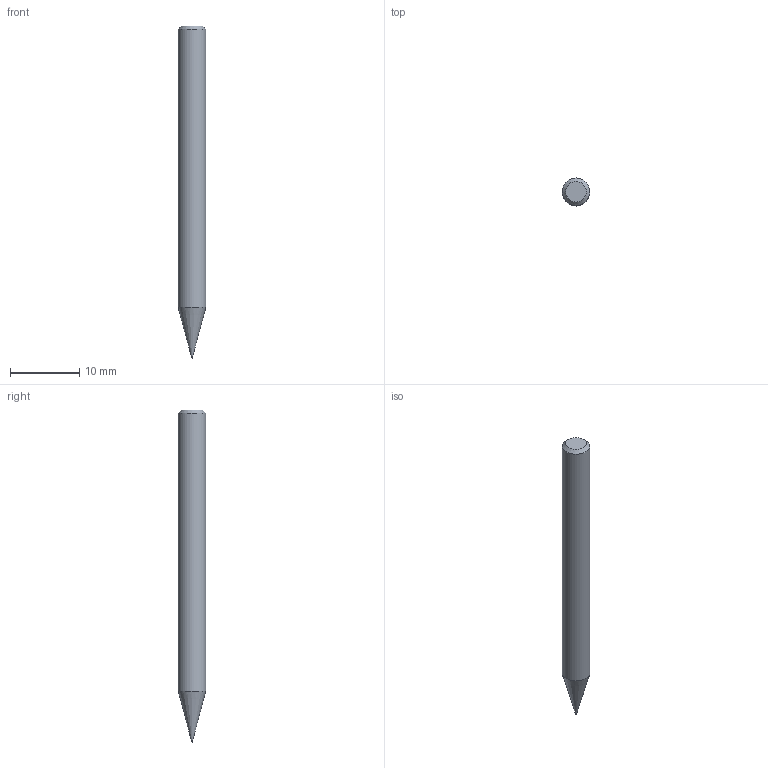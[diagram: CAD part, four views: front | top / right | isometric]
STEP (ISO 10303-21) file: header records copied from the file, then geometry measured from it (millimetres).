
FILE_DESCRIPTION((''),'2;1');
FILE_NAME('C:\Users\nsx150\AppData\Local\Temp\Mastercam 2021\OAMXJ9SBY0\TEMP.stp','2023-03-17T17:10:29',(''),(''),'STEP Write','Mastercam 2021 ... CNC Software, Inc.','');
FILE_SCHEMA(('AUTOMOTIVE_DESIGN'));
Length unit declared in the file: millimetre
Products named in the file (1): None
Bounding box: 4 x 4 x 48 mm (x, y, z)
Volume: 540.6 mm3; surface area: 567.9 mm2
Topology: 2 solids, 2 shells, 11 faces, 18 edges, 11 vertices
Faces by surface type: plane 4, cylinder 3, cone 3, sphere 1
Full cylindrical faces by diameter (mm): 0.04 x1, 0.05 x1, 4 x1
Entity records: 253 total; most frequent: DIRECTION 44, CARTESIAN_POINT 31, AXIS2_PLACEMENT_3D 22, ORIENTED_EDGE 18, EDGE_LOOP 18, STYLED_ITEM 14, ADVANCED_FACE 11, FACE_BOUND 10
